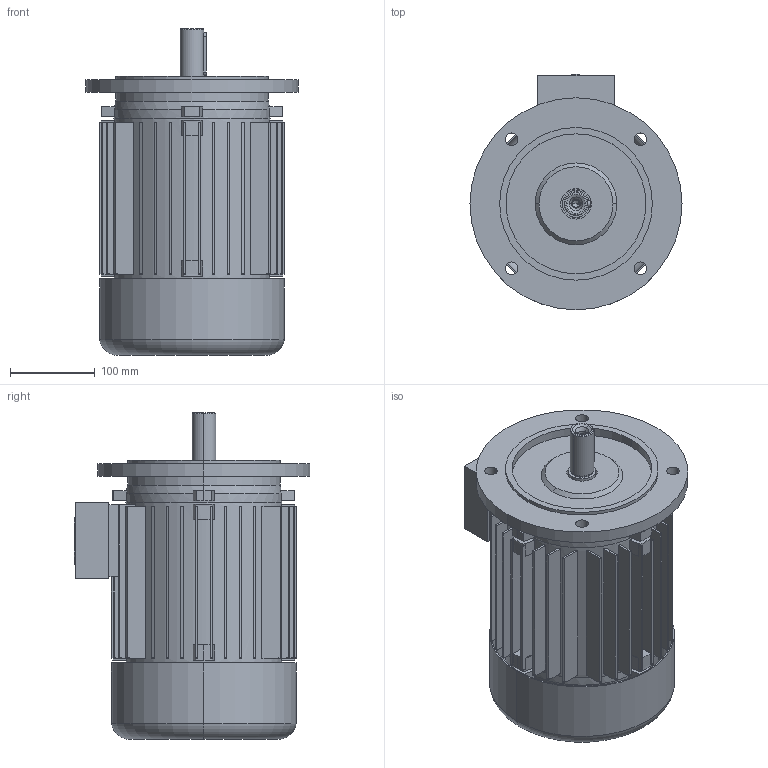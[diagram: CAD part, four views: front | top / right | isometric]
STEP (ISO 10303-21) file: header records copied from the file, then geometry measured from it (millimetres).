
FILE_DESCRIPTION (( 'STEP AP203' ), '1' );
FILE_NAME ('5AZ 112 B5 STANDK.STEP', '2017-11-10T10:53:50', ( '' ), ( '' ), 'SwSTEP 2.0', 'SolidWorks 2017', '' );
FILE_SCHEMA (( 'CONFIG_CONTROL_DESIGN' ));
Length unit declared in the file: millimetre
Products named in the file (1): 5AZ 112 B5 STANDK
Bounding box: 250 x 278 x 385 mm (x, y, z)
Volume: 3199704.1 mm3; surface area: 954592.4 mm2
Topology: 7 solids, 7 shells, 587 faces, 1557 edges, 1029 vertices
Faces by surface type: plane 372, cylinder 180, cone 22, bspline 9, torus 4
Entity records: 18477 total; most frequent: CARTESIAN_POINT 3405, DIRECTION 3191, ORIENTED_EDGE 3110, EDGE_CURVE 1555, AXIS2_PLACEMENT_3D 1095, VERTEX_POINT 1029, VECTOR 1001, LINE 1001
